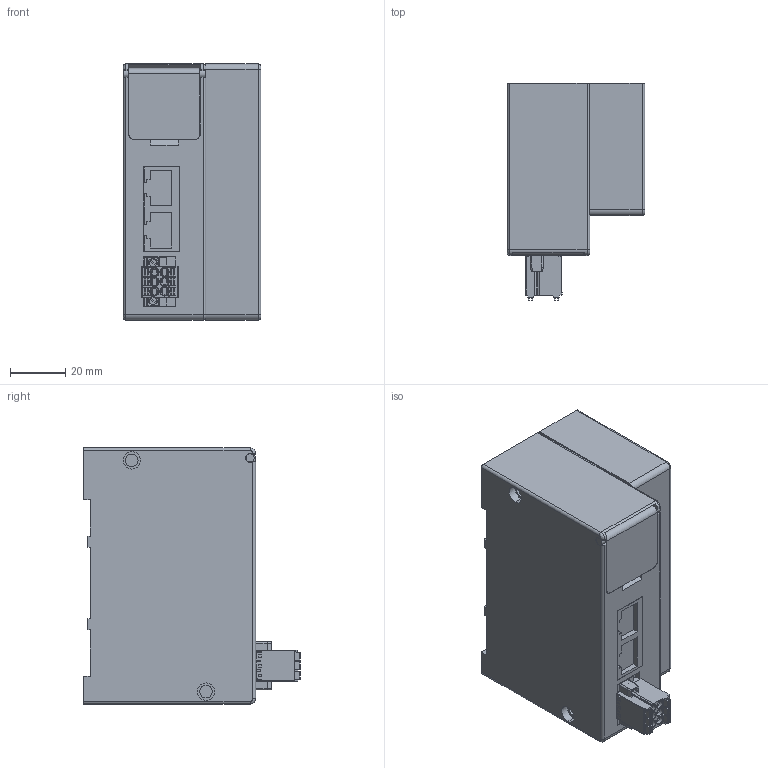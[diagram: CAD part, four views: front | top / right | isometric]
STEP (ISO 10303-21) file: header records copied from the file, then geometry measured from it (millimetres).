
FILE_DESCRIPTION( (''), '2;1');
FILE_NAME ('YS8-M3-RE.stp','2022-12-01T16:51:39',(''),(''),'spGate 12.6.6','','');
FILE_SCHEMA (('AUTOMOTIVE_DESIGN'));
Length unit declared in the file: millimetre
Bounding box: 50 x 78.8 x 93 mm (x, y, z)
Volume: 253322.9 mm3; surface area: 30830.2 mm2
Topology: 1 solids, 1 shells, 653 faces, 1723 edges, 1113 vertices
Faces by surface type: plane 433, cylinder 186, bspline 34
Entity records: 34420 total; most frequent: CARTESIAN_POINT 4504, ORIENTED_EDGE 3446, DIRECTION 3247, COLOUR_RGB 2377, PRESENTATION_STYLE_ASSIGNMENT 2377, STYLED_ITEM 2377, EDGE_CURVE 1723, DRAUGHTING_PRE_DEFINED_CURVE_FONT 1723
